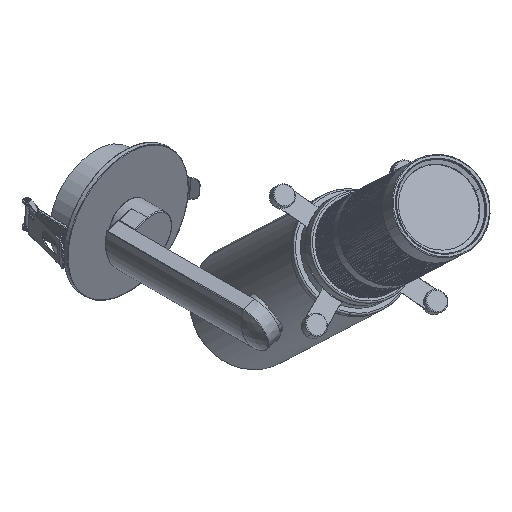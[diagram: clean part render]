
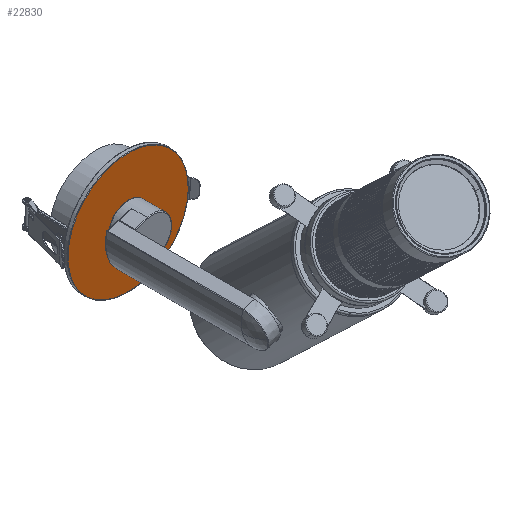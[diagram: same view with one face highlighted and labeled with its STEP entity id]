
A CAD part, isometric view. The second image highlights one B-rep face of the part: STEP entity #22830.
In plain terms, the highlighted planar face has unit normal (0, -1, 0) as drawn and (-1, 0, 0) by its records, which use the part's own axes.
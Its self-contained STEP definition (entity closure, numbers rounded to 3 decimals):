
#606 = AXIS2_PLACEMENT_3D ( 'NONE', #12807, #47086, #21779 ) ;
#2442 = CIRCLE ( 'NONE', #29386, 5.25 ) ;
#4385 = DIRECTION ( 'NONE',  ( 1., 0., 0. ) ) ;
#5022 = DIRECTION ( 'NONE',  ( 0., -0.999, -0.038 ) ) ;
#5390 = FACE_BOUND ( 'NONE', #102992, .T. ) ;
#10993 = VERTEX_POINT ( 'NONE', #56758 ) ;
#11540 = AXIS2_PLACEMENT_3D ( 'NONE', #82584, #91023, #5022 ) ;
#12807 = CARTESIAN_POINT ( 'NONE',  ( 177.637, 765.419, -4.922 ) ) ;
#13804 = CARTESIAN_POINT ( 'NONE',  ( 177.637, 765.419, -4.922 ) ) ;
#15477 = DIRECTION ( 'NONE',  ( -1., 0., 0. ) ) ;
#21779 = DIRECTION ( 'NONE',  ( 0., 0.999, 0.038 ) ) ;
#22830 = ADVANCED_FACE ( 'NONE', ( #5390, #31776 ), #99789, .T. ) ;
#25268 = EDGE_LOOP ( 'NONE', ( #104962, #96858 ) ) ;
#29386 = AXIS2_PLACEMENT_3D ( 'NONE', #62948, #74721, #110150 ) ;
#29661 = DIRECTION ( 'NONE',  ( 0., -0.999, -0.038 ) ) ;
#30117 = CARTESIAN_POINT ( 'NONE',  ( 177.637, 808.089, -3.316 ) ) ;
#31776 = FACE_OUTER_BOUND ( 'NONE', #25268, .T. ) ;
#39097 = DIRECTION ( 'NONE',  ( 0., 0., 1. ) ) ;
#43874 = CIRCLE ( 'NONE', #11540, 42.7 ) ;
#44280 = EDGE_CURVE ( 'NONE', #10993, #87756, #93092, .T. ) ;
#47086 = DIRECTION ( 'NONE',  ( -1., 0., 0. ) ) ;
#50843 = CIRCLE ( 'NONE', #606, 42.7 ) ;
#53464 = ORIENTED_EDGE ( 'NONE', *, *, #44280, .T. ) ;
#56758 = CARTESIAN_POINT ( 'NONE',  ( 177.637, 760.173, -5.12 ) ) ;
#59771 = AXIS2_PLACEMENT_3D ( 'NONE', #13804, #15477, #39097 ) ;
#62227 = EDGE_CURVE ( 'NONE', #74054, #101693, #43874, .T. ) ;
#62948 = CARTESIAN_POINT ( 'NONE',  ( 177.637, 765.419, -4.922 ) ) ;
#74054 = VERTEX_POINT ( 'NONE', #81734 ) ;
#74721 = DIRECTION ( 'NONE',  ( 1., 0., 0. ) ) ;
#77785 = ORIENTED_EDGE ( 'NONE', *, *, #81486, .T. ) ;
#80454 = EDGE_CURVE ( 'NONE', #101693, #74054, #50843, .T. ) ;
#81486 = EDGE_CURVE ( 'NONE', #87756, #10993, #2442, .T. ) ;
#81734 = CARTESIAN_POINT ( 'NONE',  ( 177.637, 722.749, -6.528 ) ) ;
#82584 = CARTESIAN_POINT ( 'NONE',  ( 177.637, 765.419, -4.922 ) ) ;
#87756 = VERTEX_POINT ( 'NONE', #106265 ) ;
#91023 = DIRECTION ( 'NONE',  ( -1., 0., 0. ) ) ;
#93092 = CIRCLE ( 'NONE', #109220, 5.25 ) ;
#96858 = ORIENTED_EDGE ( 'NONE', *, *, #62227, .T. ) ;
#99789 = PLANE ( 'NONE',  #59771 ) ;
#101693 = VERTEX_POINT ( 'NONE', #30117 ) ;
#102992 = EDGE_LOOP ( 'NONE', ( #77785, #53464 ) ) ;
#104962 = ORIENTED_EDGE ( 'NONE', *, *, #80454, .T. ) ;
#106265 = CARTESIAN_POINT ( 'NONE',  ( 177.637, 770.665, -4.725 ) ) ;
#106694 = CARTESIAN_POINT ( 'NONE',  ( 177.637, 765.419, -4.922 ) ) ;
#109220 = AXIS2_PLACEMENT_3D ( 'NONE', #106694, #4385, #29661 ) ;
#110150 = DIRECTION ( 'NONE',  ( 0., 0.999, 0.038 ) ) ;
